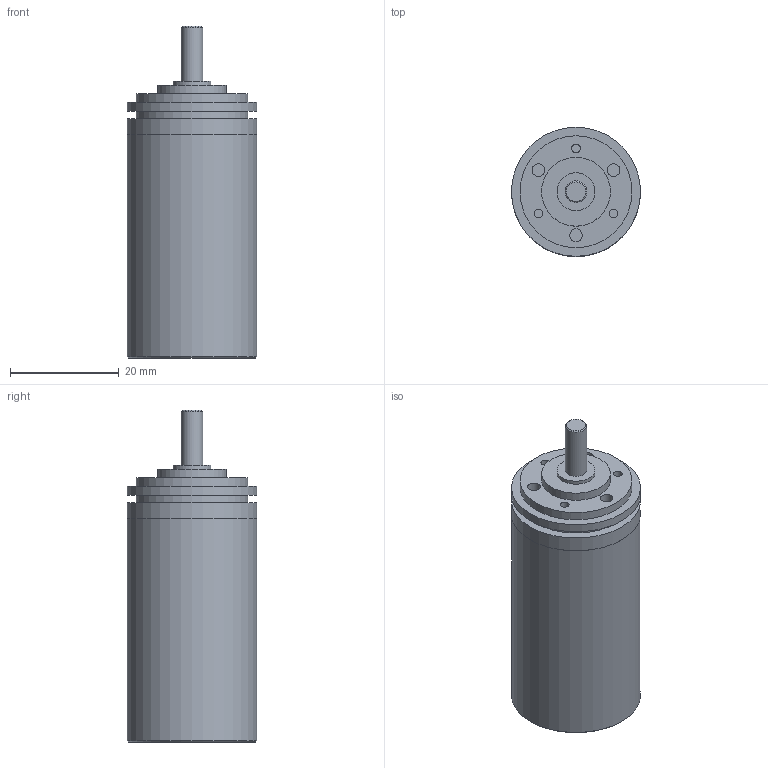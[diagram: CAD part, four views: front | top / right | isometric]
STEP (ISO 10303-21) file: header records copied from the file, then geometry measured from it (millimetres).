
FILE_DESCRIPTION(/* description */ (''),/* implementation_level */ '2;1');
FILE_NAME(/* name */ '22-2K_3.stp',/* time_stamp */ '2016-08-26T11:28:33+02:00',/* author */ ('DR. FRITZ FAULHABER GmbH & Co. KG'),/* organization */ ('DR. FRITZ FAULHABER GmbH & Co. KG'),/* preprocessor_version */ 'ST-DEVELOPER v16',/* originating_system */ 'SIEMENS PLM Software NX 10.0',/* authorisation */ '');
FILE_SCHEMA (('AUTOMOTIVE_DESIGN { 1 0 10303 214 3 1 1 1 }'));
Length unit declared in the file: millimetre
Products named in the file (1): H00000843_A
Bounding box: 23.8 x 23.8 x 61.2 mm (x, y, z)
Volume: 13504.6 mm3; surface area: 6648.5 mm2
Topology: 1 solids, 1 shells, 42 faces, 65 edges, 43 vertices
Faces by surface type: plane 20, cylinder 19, cone 3
Full cylindrical faces by diameter (mm): 1.6 x3, 2.329 x3, 3.5 x1, 4 x1, 4.5 x1, 7 x2, 12.7 x1, 20.63 x2, 22 x1, 23.79 x1, 23.8 x3
Entity records: 858 total; most frequent: DIRECTION 168, CARTESIAN_POINT 125, AXIS2_PLACEMENT_3D 84, EDGE_LOOP 82, ORIENTED_EDGE 82, FACE_BOUND 74, ADVANCED_FACE 42, VERTEX_POINT 41
